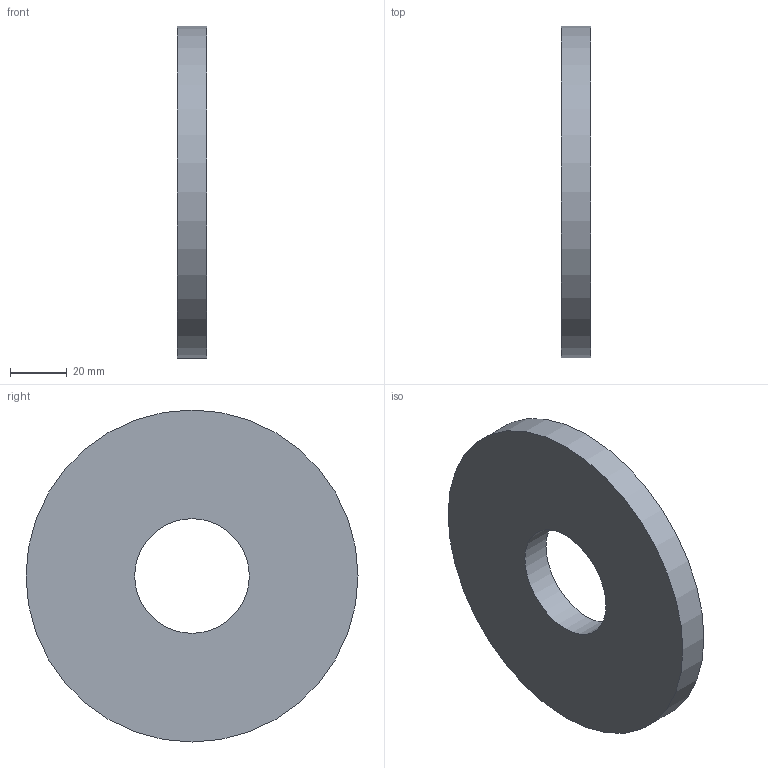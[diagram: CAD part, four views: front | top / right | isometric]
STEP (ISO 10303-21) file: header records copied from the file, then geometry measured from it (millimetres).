
FILE_DESCRIPTION(('Open CASCADE Model'),'2;1');
FILE_NAME('Open CASCADE Shape Model','2026-09-09T00:35:32',('Author'),( 'Open CASCADE'),'Open CASCADE STEP processor 7.7','Open CASCADE 7.7' ,'Unknown');
FILE_SCHEMA(('AUTOMOTIVE_DESIGN { 1 0 10303 214 1 1 1 1 }'));
Length unit declared in the file: millimetre
Products named in the file (1): Open CASCADE STEP translator 7.7 1
Bounding box: 10.47 x 116.52 x 116.52 mm (x, y, z)
Volume: 98302.7 mm3; surface area: 23935.5 mm2
Topology: 1 solids, 1 shells, 4 faces, 6 edges, 4 vertices
Faces by surface type: cylinder 2, plane 2
Full cylindrical faces by diameter (mm): 40.28 x1, 116.52 x1
Entity records: 192 total; most frequent: CARTESIAN_POINT 39, DIRECTION 30, ORIENTED_EDGE 12, PCURVE 12, DEFINITIONAL_REPRESENTATION 12, LINE 10, VECTOR 10, AXIS2_PLACEMENT_3D 9
